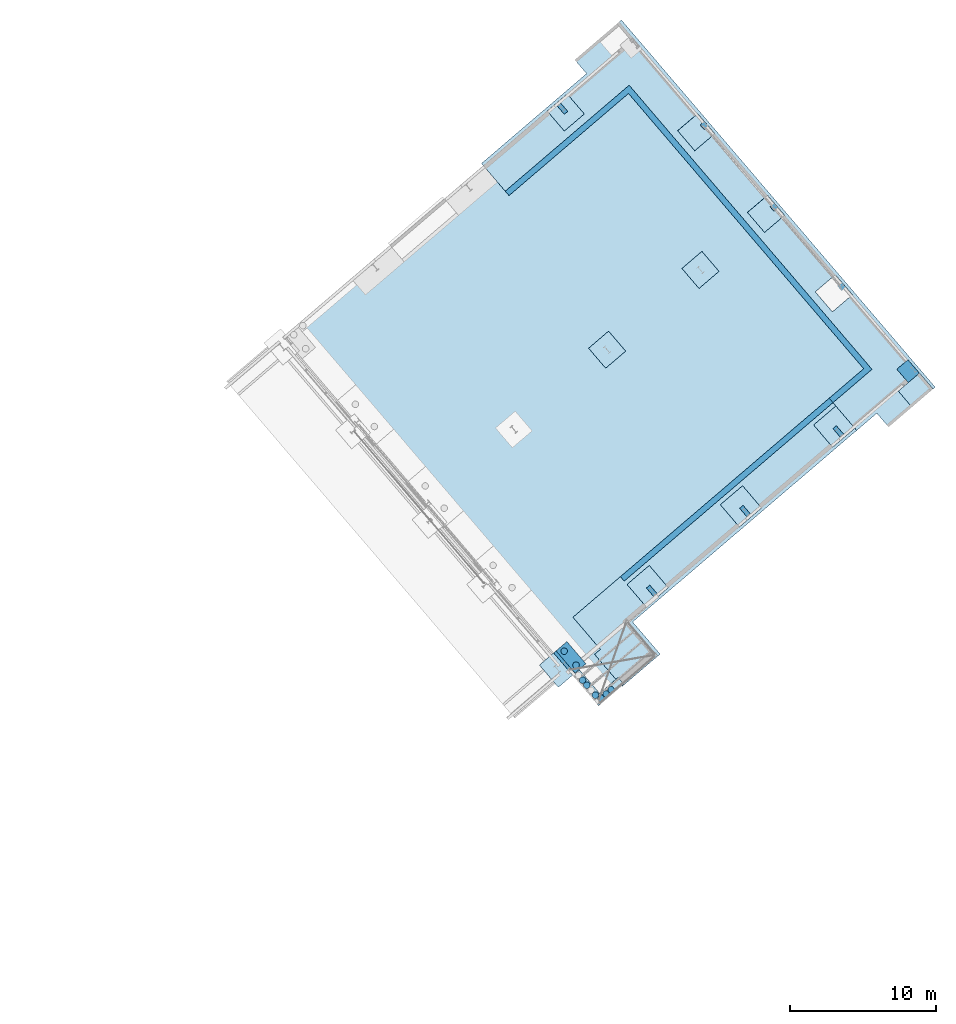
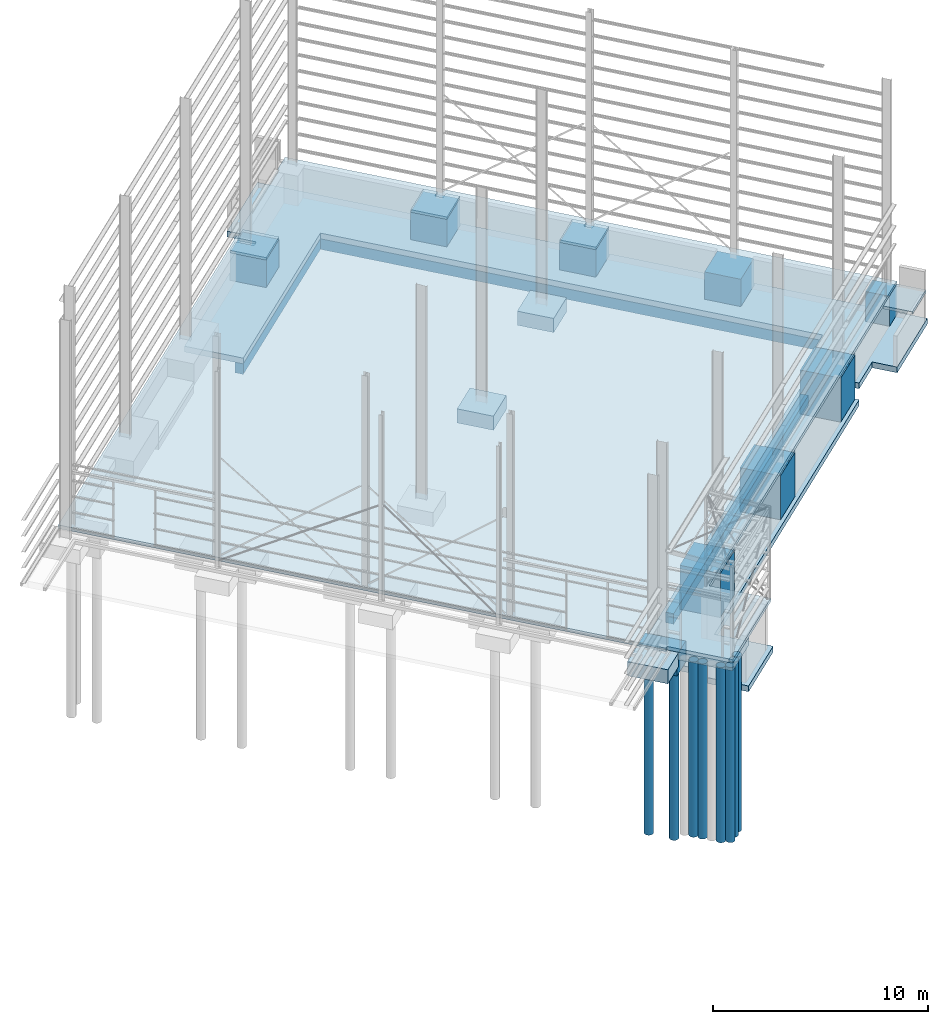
# One storey, part 36 of 41: 33 slabs.
"""IFC2X3 building model written with IfcOpenShell, lengths in millimetres."""

from ifc_helpers import new_model, entity, si_unit, converted_unit, derived_unit, direction, frame, frame_2d, origin, origin_2d_with_axis, place, context, subcontext, project, spatial, polyline, circle_curve, parameter, trimmed, segment, composite_curve, rectangle, circle, outline, extrude, material, layer, layer_set, layer_usage, type_object, element, save


model = new_model("IFC2X3")

# Units and contexts
model_context = context("Model", 3, precision=0.01, world=origin(), true_north=direction((6.123031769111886e-17, 1.0)))
body_context = subcontext(model_context, "Body", "Model", "MODEL_VIEW")
ifc_project = project(units=[si_unit("LENGTHUNIT", "METRE", prefix="MILLI"), si_unit("AREAUNIT", "SQUARE_METRE"), si_unit("VOLUMEUNIT", "CUBIC_METRE"), converted_unit("PLANEANGLEUNIT", "DEGREE", entity("IfcRatioMeasure", 0.017453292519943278), si_unit("PLANEANGLEUNIT", "RADIAN"), dimensions=[0, 0, 0, 0, 0, 0, 0]), si_unit("MASSUNIT", "GRAM", prefix="KILO"), derived_unit("MASSDENSITYUNIT", [(si_unit("MASSUNIT", "GRAM", prefix="KILO"), 1), (si_unit("LENGTHUNIT", "METRE"), -3)]), derived_unit("MOMENTOFINERTIAUNIT", [(si_unit("LENGTHUNIT", "METRE"), 4)]), si_unit("TIMEUNIT", "SECOND"), si_unit("FREQUENCYUNIT", "HERTZ"), si_unit("THERMODYNAMICTEMPERATUREUNIT", "DEGREE_CELSIUS"), derived_unit("THERMALTRANSMITTANCEUNIT", [(si_unit("MASSUNIT", "GRAM", prefix="KILO"), 1), (si_unit("THERMODYNAMICTEMPERATUREUNIT", "KELVIN"), -1), (si_unit("TIMEUNIT", "SECOND"), -3)]), derived_unit("VOLUMETRICFLOWRATEUNIT", [(si_unit("LENGTHUNIT", "METRE"), 3), (si_unit("TIMEUNIT", "SECOND"), -1)]), derived_unit("MASSFLOWRATEUNIT", [(si_unit("MASSUNIT", "GRAM", prefix="KILO"), 1), (si_unit("TIMEUNIT", "SECOND"), -1)]), derived_unit("ROTATIONALFREQUENCYUNIT", [(si_unit("TIMEUNIT", "SECOND"), -1)]), si_unit("ELECTRICCURRENTUNIT", "AMPERE"), si_unit("ELECTRICVOLTAGEUNIT", "VOLT"), si_unit("POWERUNIT", "WATT"), si_unit("FORCEUNIT", "NEWTON", prefix="KILO"), si_unit("ILLUMINANCEUNIT", "LUX"), si_unit("LUMINOUSFLUXUNIT", "LUMEN"), si_unit("LUMINOUSINTENSITYUNIT", "CANDELA"), derived_unit("USERDEFINED", [(si_unit("MASSUNIT", "GRAM", prefix="KILO"), -1), (si_unit("LENGTHUNIT", "METRE"), -2), (si_unit("TIMEUNIT", "SECOND"), 3), (si_unit("LUMINOUSFLUXUNIT", "LUMEN"), 1)]), derived_unit("SOUNDPOWERUNIT", [(si_unit("MASSUNIT", "GRAM", prefix="KILO"), 1), (si_unit("LENGTHUNIT", "METRE"), 2), (si_unit("TIMEUNIT", "SECOND"), -3)]), derived_unit("LINEARVELOCITYUNIT", [(si_unit("LENGTHUNIT", "METRE"), 1), (si_unit("TIMEUNIT", "SECOND"), -1)]), si_unit("PRESSUREUNIT", "PASCAL"), derived_unit("USERDEFINED", [(si_unit("LENGTHUNIT", "METRE"), -2), (si_unit("MASSUNIT", "GRAM", prefix="KILO"), 1), (si_unit("TIMEUNIT", "SECOND"), -2)]), derived_unit("LINEARFORCEUNIT", [(si_unit("MASSUNIT", "GRAM", prefix="KILO"), 1), (si_unit("LENGTHUNIT", "METRE"), 1), (si_unit("TIMEUNIT", "SECOND"), -2), (si_unit("LENGTHUNIT", "METRE"), -1)]), derived_unit("PLANARFORCEUNIT", [(si_unit("MASSUNIT", "GRAM", prefix="KILO"), 1), (si_unit("LENGTHUNIT", "METRE"), 1), (si_unit("TIMEUNIT", "SECOND"), -2), (si_unit("LENGTHUNIT", "METRE"), -2)])], contexts=[model_context])

# Site, building, storey
site_placement = place(None, frame((962.4174930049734, -6014.433753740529, 0.0), z_axis=(0.0, 0.0, 1.0), x_axis=(0.7601792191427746, 0.649713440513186, 0.0)))
site = spatial("IfcSite", under=ifc_project, at=site_placement, Name="Default", CompositionType="ELEMENT")
building_placement = place(site_placement, origin())
building = spatial("IfcBuilding", under=site, at=building_placement, CompositionType="ELEMENT")
storey_placement = place(building_placement, origin())
storey = spatial("IfcBuildingStorey", under=building, at=storey_placement, Name="Datum", CompositionType="ELEMENT", Elevation=0.0)

# Slabs
ifc_material_1 = material(Name="GHD-Concrete-Concrete_InSitu")
slab_type_1 = type_object("IfcSlabType", Name="FT-GHD-Pad:1500x2000x800", PredefinedType="BASESLAB", material=ifc_material_1)
slab_1_placement = place(building_placement, origin())
element("IfcSlab", 1, at=slab_1_placement, inside=storey, type_object=slab_type_1, Name="FT-GHD-Pad:1500x2000x800", ObjectType="FT-GHD-Pad:1500x2000x800", PredefinedType="BASESLAB", context=body_context, shape_type="SweptSolid", body=[
    extrude(rectangle(XDim=1500.0000000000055, YDim=1999.999999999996, at=frame_2d((176.9999999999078, 4.376943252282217e-12), x_axis=(1.0, 0.0))), frame((154115.96020470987, -25622.42808212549, -1170.0), z_axis=(0.0, 0.0, 1.0), x_axis=(-1.0, 0.0, 0.0)), (0.0, 0.0, 1.0), 799.99999999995),
])
slab_type_2 = type_object("IfcSlabType", Name="FT-GHD-Pad:1800x1800x800", PredefinedType="BASESLAB", material=ifc_material_1)
slab_2_placement = place(building_placement, origin())
element("IfcSlab", 2, at=slab_2_placement, inside=storey, type_object=slab_type_2, Name="FT-GHD-Pad:1800x1800x800", ObjectType="FT-GHD-Pad:1800x1800x800", PredefinedType="BASESLAB", context=body_context, shape_type="SweptSolid", body=[
    extrude(rectangle(XDim=1799.9999999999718, YDim=1799.999999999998, at=frame_2d((0.0, 2.1600499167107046e-12), x_axis=(1.0, 0.0))), frame((170743.76020470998, -11221.928082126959, -1150.0), z_axis=(0.0, 0.0, 1.0), x_axis=(-1.0, 0.0, 0.0)), (0.0, 0.0, 1.0), 799.9999999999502),
])
slab_type_3 = type_object("IfcSlabType", Name="FT-GHD-Pad:1800x1800x800", PredefinedType="BASESLAB", material=ifc_material_1)
slab_3_placement = place(building_placement, origin())
element("IfcSlab", 3, at=slab_3_placement, inside=storey, type_object=slab_type_3, Name="FT-GHD-Pad:1800x1800x800", ObjectType="FT-GHD-Pad:1800x1800x800", PredefinedType="BASESLAB", context=body_context, shape_type="SweptSolid", body=[
    extrude(rectangle(XDim=1799.9999999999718, YDim=1799.999999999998, at=origin_2d_with_axis()), frame((179148.56020471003, -11221.92808212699, -1150.0), z_axis=(0.0, 0.0, 1.0), x_axis=(-1.0, 0.0, 0.0)), (0.0, 0.0, 1.0), 799.9999999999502),
])
slab_type_4 = type_object("IfcSlabType", Name="FT-GHD-Pad:2500x2000x2000", PredefinedType="BASESLAB", material=ifc_material_1)
slab_4_placement = place(building_placement, origin())
element("IfcSlab", 4, at=slab_4_placement, inside=storey, type_object=slab_type_4, Name="FT-GHD-Pad:2500x2000x2000", ObjectType="FT-GHD-Pad:2500x2000x2000", PredefinedType="BASESLAB", context=body_context, shape_type="SweptSolid", body=[
    extrude(rectangle(XDim=1999.999999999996, YDim=1999.999999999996, at=frame_2d((-1.7337242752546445e-11, 0.0), x_axis=(1.0, 0.0))), frame((170738.96020470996, -25323.428082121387, -2850.0), z_axis=(0.0, 0.0, 1.0), x_axis=(-1.0, 0.0, 0.0)), (0.0, 0.0, 1.0), 2499.9999999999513),
])
slab_type_5 = type_object("IfcSlabType", Name="FT-GHD-Pad:2500x2000x2000", PredefinedType="BASESLAB", material=ifc_material_1)
slab_5_placement = place(building_placement, origin())
element("IfcSlab", 5, at=slab_5_placement, inside=storey, type_object=slab_type_5, Name="FT-GHD-Pad:2500x2000x2000", ObjectType="FT-GHD-Pad:2500x2000x2000", PredefinedType="BASESLAB", context=body_context, shape_type="SweptSolid", body=[
    extrude(rectangle(XDim=1999.999999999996, YDim=1999.999999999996, at=frame_2d((1.7337242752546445e-11, 0.0), x_axis=(1.0, 0.0))), frame((179138.96020471, -25323.42808212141, -2850.0), z_axis=(0.0, 0.0, 1.0), x_axis=(-1.0, 0.0, 0.0)), (0.0, 0.0, 1.0), 2499.9999999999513),
])
slab_type_6 = type_object("IfcSlabType", Name="FT-GHD-Pad:1700x1000x1000", PredefinedType="BASESLAB", material=ifc_material_1)
slab_6_placement = place(storey_placement, origin())
element("IfcSlab", 6, at=slab_6_placement, inside=storey, type_object=slab_type_6, Name="FT-GHD-Pad:1700x1000x1000", ObjectType="FT-GHD-Pad:1700x1000x1000", PredefinedType="BASESLAB", context=body_context, shape_type="SweptSolid", body=[
    extrude(rectangle(XDim=999.9999999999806, YDim=1200.0, at=frame_2d((0.0, 2.1600499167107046e-12), x_axis=(1.0, 0.0))), frame((185449.5602047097, -25723.4280821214, -1900.0), z_axis=(0.0, 0.0, 1.0), x_axis=(-1.0, 0.0, 0.0)), (0.0, 0.0, 1.0), 1699.9999999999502),
])
slab_type_7 = type_object("IfcSlabType", Name="FT-GHD-Pad:2500x2000x2000", PredefinedType="BASESLAB", material=ifc_material_1)
slab_7_placement = place(building_placement, origin())
element("IfcSlab", 7, at=slab_7_placement, inside=storey, type_object=slab_type_7, Name="FT-GHD-Pad:2500x2000x2000", ObjectType="FT-GHD-Pad:2500x2000x2000", PredefinedType="BASESLAB", context=body_context, shape_type="SweptSolid", body=[
    extrude(rectangle(XDim=1999.999999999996, YDim=1999.999999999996, at=frame_2d((1.7337242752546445e-11, 0.0), x_axis=(1.0, 0.0))), frame((162338.96020470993, -25323.428082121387, -2850.0), z_axis=(0.0, 0.0, 1.0), x_axis=(-1.0, 0.0, 0.0)), (0.0, 0.0, 1.0), 2499.9999999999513),
])
slab_type_8 = type_object("IfcSlabType", Name="FT-GHD-Pad:1550x1800x1800", PredefinedType="BASESLAB", material=ifc_material_1)
slab_8_placement = place(building_placement, origin())
element("IfcSlab", 8, at=slab_8_placement, inside=storey, type_object=slab_type_8, Name="FT-GHD-Pad:1550x1800x1800", ObjectType="FT-GHD-Pad:1550x1800x1800", PredefinedType="BASESLAB", context=body_context, shape_type="SweptSolid", body=[
    extrude(rectangle(XDim=1800.0, YDim=1800.0000000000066, at=frame_2d((-1.1368683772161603e-13, 0.0), x_axis=(1.0, 0.0))), frame((179138.96020471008, 2960.0719178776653, -1900.0), z_axis=(0.0, 0.0, 1.0), x_axis=(0.0, -1.0, 0.0)), (0.0, 0.0, 1.0), 1549.9999999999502),
])
slab_type_9 = type_object("IfcSlabType", Name="FT-GHD-Pad:1500x800x950 2", PredefinedType="BASESLAB", material=ifc_material_1)
slab_9_placement = place(storey_placement, origin())
element("IfcSlab", 9, at=slab_9_placement, inside=storey, type_object=slab_type_9, Name="FT-GHD-Pad:1500x800x950 2", ObjectType="FT-GHD-Pad:1500x800x950 2", PredefinedType="BASESLAB", context=body_context, shape_type="SweptSolid", body=[
    extrude(outline(polyline([(-727.0, -533.3333333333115), (473.0, -533.3333333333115), (473.0, -133.33333333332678), (254.0, -133.33333333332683), (254.0, 666.6666666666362), (-727.0, 666.6666666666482), (-727.0, -533.3333333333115)])), frame((154942.96020470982, -26622.42808212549, -1036.6666666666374), z_axis=(0.0, 1.0, 0.0), x_axis=(-1.0, 0.0, 0.0)), (0.0, 0.0, 1.0), 1999.999999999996),
])
ifc_material_2 = material(Name="Concrete_Cast in Situ")
slab_type_10 = type_object("IfcSlabType", Name="FT-GHD-Pile-Round:450 BORED PILE", PredefinedType="BASESLAB", material=ifc_material_2)
slab_10_placement = place(building_placement, origin())
element("IfcSlab", 10, at=slab_10_placement, inside=storey, type_object=slab_type_10, Name="FT-GHD-Pile-Round:450 BORED PILE", ObjectType="FT-GHD-Pile-Round:450 BORED PILE", PredefinedType="BASESLAB", context=body_context, shape_type="SweptSolid", body=[
    extrude(circle(Radius=225.00000000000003, at=origin_2d_with_axis()), frame((155098.33794747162, -26247.428082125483, -11250.0)), (0.0, 0.0, 1.0), 9680.000000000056),
])
slab_type_11 = type_object("IfcSlabType", Name="FT-GHD-Pile-Round:450 BORED PILE", PredefinedType="BASESLAB", material=ifc_material_2)
slab_11_placement = place(building_placement, origin())
element("IfcSlab", 11, at=slab_11_placement, inside=storey, type_object=slab_type_11, Name="FT-GHD-Pile-Round:450 BORED PILE", ObjectType="FT-GHD-Pile-Round:450 BORED PILE", PredefinedType="BASESLAB", context=body_context, shape_type="SweptSolid", body=[
    extrude(circle(Radius=225.00000000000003, at=origin_2d_with_axis()), frame((155098.33794747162, -24997.428082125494, -11250.0)), (0.0, 0.0, 1.0), 9680.000000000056),
])
slab_type_12 = type_object("IfcSlabType", Name="FT-GHD-Pad:1550x1800x1800", PredefinedType="BASESLAB", material=ifc_material_1)
slab_12_placement = place(building_placement, origin())
element("IfcSlab", 12, at=slab_12_placement, inside=storey, type_object=slab_type_12, Name="FT-GHD-Pad:1550x1800x1800", ObjectType="FT-GHD-Pad:1550x1800x1800", PredefinedType="BASESLAB", context=body_context, shape_type="SweptSolid", body=[
    extrude(rectangle(XDim=1800.0000000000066, YDim=1799.999999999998, at=origin_2d_with_axis()), frame((185049.56020470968, -18372.07885687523, -1900.0), z_axis=(0.0, 0.0, 1.0), x_axis=(-1.0, 0.0, 0.0)), (0.0, 0.0, 1.0), 1549.9999999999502),
])
slab_type_13 = type_object("IfcSlabType", Name="FT-GHD-Pad:1550x1800x1800", PredefinedType="BASESLAB", material=ifc_material_1)
slab_13_placement = place(building_placement, origin())
element("IfcSlab", 13, at=slab_13_placement, inside=storey, type_object=slab_type_13, Name="FT-GHD-Pad:1550x1800x1800", ObjectType="FT-GHD-Pad:1550x1800x1800", PredefinedType="BASESLAB", context=body_context, shape_type="SweptSolid", body=[
    extrude(rectangle(XDim=1800.0000000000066, YDim=1799.999999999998, at=origin_2d_with_axis()), frame((185049.56020470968, -11215.978082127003, -1900.0), z_axis=(0.0, 0.0, 1.0), x_axis=(-1.0, 0.0, 0.0)), (0.0, 0.0, 1.0), 1549.9999999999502),
])
slab_type_14 = type_object("IfcSlabType", Name="FT-GHD-Pad:1550x1800x1800", PredefinedType="BASESLAB", material=ifc_material_1)
slab_14_placement = place(building_placement, origin())
element("IfcSlab", 14, at=slab_14_placement, inside=storey, type_object=slab_type_14, Name="FT-GHD-Pad:1550x1800x1800", ObjectType="FT-GHD-Pad:1550x1800x1800", PredefinedType="BASESLAB", context=body_context, shape_type="SweptSolid", body=[
    extrude(rectangle(XDim=1800.0000000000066, YDim=1799.9999999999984, at=frame_2d((0.0, 2.8421709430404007e-13), x_axis=(1.0, 0.0))), frame((185049.56020470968, -3861.640582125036, -1900.0), z_axis=(0.0, 0.0, 1.0), x_axis=(-1.0, 0.0, 0.0)), (0.0, 0.0, 1.0), 1549.9999999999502),
])
ifc_layer_1 = layer(ifc_material_1, 200.0)
ifc_layer_set_1 = layer_set([ifc_layer_1], Name="Floor:FL-GHD-Cast In Situ - Concrete 200")
ifc_layer_usage_1 = layer_usage(ifc_layer_set_1, "AXIS3", "POSITIVE", 0.0)
slab_type_15 = type_object("IfcSlabType", Name="Floor:FL-GHD-Cast In Situ - Concrete 200", PredefinedType="FLOOR", material=ifc_layer_set_1)
slab_15_placement = place(building_placement, origin())
element("IfcSlab", 15, at=slab_15_placement, inside=storey, type_object=slab_type_15, material=ifc_layer_usage_1, Name="Floor:FL-GHD-Cast In Situ - Concrete 200", ObjectType="Floor:FL-GHD-Cast In Situ - Concrete 200", PredefinedType="FLOOR", context=body_context, shape_type="SweptSolid", body=[
    extrude(outline(polyline([(-6641.749999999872, -9312.1500000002), (23351.24999999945, -9312.1500000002), (23351.24999999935, 22327.450000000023), (-6832.249999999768, 22327.450000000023), (-6832.249999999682, -3858.149999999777), (-9877.249999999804, -3858.149999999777), (-9877.249999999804, -9157.150000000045), (-6641.749999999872, -9157.150000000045), (-6641.749999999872, -9312.1500000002)])), frame((163622.1102047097, -19491.178082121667, 0.0), z_axis=(0.0, 0.0, -1.0), x_axis=(0.0, 1.0, 0.0)), (0.0, 0.0, 1.0), 200.0),
])
ifc_material_3 = material(Name="<Unnamed>")
ifc_layer_2 = layer(ifc_material_3, 325.0)
ifc_layer_set_2 = layer_set([ifc_layer_2], Name="Foundation Slab:PH-Foundation Slab (325)")
ifc_layer_usage_2 = layer_usage(ifc_layer_set_2, "AXIS3", "POSITIVE", 0.0)
slab_type_16 = type_object("IfcSlabType", Name="Foundation Slab:PH-Foundation Slab (325)", PredefinedType="BASESLAB", material=ifc_layer_set_2)
slab_16_placement = place(building_placement, origin())
element("IfcSlab", 16, at=slab_16_placement, inside=storey, type_object=slab_type_16, material=ifc_layer_usage_2, Name="Foundation Slab:PH-Foundation Slab (325)", ObjectType="Foundation Slab:PH-Foundation Slab (325)", PredefinedType="BASESLAB", context=body_context, shape_type="SweptSolid", body=[
    extrude(outline(polyline([(12391.7499999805, -8499.399999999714), (15291.749999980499, -8499.399999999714), (15291.749999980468, 963.1999999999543), (16529.75000000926, 963.1999999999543), (16529.750000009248, 5161.199999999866), (-16529.749999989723, 5161.199999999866), (-16529.749999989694, 963.1999999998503), (-15291.749999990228, 963.1999999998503), (-15291.749999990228, -849.3999999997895), (-12391.749999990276, -849.3999999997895), (-12391.749999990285, 2261.199999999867), (12391.749999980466, 2261.199999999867), (12391.7499999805, -8499.399999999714)])), frame((180988.3602047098, -11231.678082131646, -1900.0), z_axis=(0.0, 0.0, -1.0), x_axis=(0.0, 1.0, 0.0)), (0.0, 0.0, 1.0), 325.0),
])
ifc_layer_3 = layer(ifc_material_3, 600.0)
ifc_layer_set_3 = layer_set([ifc_layer_3], Name="Foundation Slab:PH-Foundation Slab (600)")
ifc_layer_usage_3 = layer_usage(ifc_layer_set_3, "AXIS3", "POSITIVE", 0.0)
slab_type_17 = type_object("IfcSlabType", Name="Foundation Slab:PH-Foundation Slab (600)", PredefinedType="BASESLAB", material=ifc_layer_set_3)
slab_17_placement = place(building_placement, origin())
element("IfcSlab", 17, at=slab_17_placement, inside=storey, type_object=slab_type_17, material=ifc_layer_usage_3, Name="Foundation Slab:PH-Foundation Slab (600)", ObjectType="Foundation Slab:PH-Foundation Slab (600)", PredefinedType="BASESLAB", context=body_context, shape_type="SweptSolid", body=[
    extrude(outline(polyline([(12391.7499999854, -7392.799999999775), (12791.7499999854, -7392.799999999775), (12791.749999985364, 3767.799999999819), (-12791.749999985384, 3767.799999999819), (-12791.749999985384, 257.20000000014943), (-12391.749999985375, 257.20000000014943), (-12391.749999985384, 3367.799999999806), (12391.749999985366, 3367.799999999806), (12391.7499999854, -7392.799999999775)])), frame((179881.76020470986, -11231.678082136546, -2225.0), z_axis=(0.0, 0.0, -1.0), x_axis=(0.0, 1.0, 0.0)), (0.0, 0.0, 1.0), 599.9999999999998),
])
ifc_layer_4 = layer(ifc_material_1, 170.0)
ifc_layer_set_4 = layer_set([ifc_layer_4], Name="Floor:FL-GHD-Cast In Situ - Concrete 170")
ifc_layer_usage_4 = layer_usage(ifc_layer_set_4, "AXIS3", "POSITIVE", 0.0)
slab_type_18 = type_object("IfcSlabType", Name="Floor:FL-GHD-Cast In Situ - Concrete 170", PredefinedType="FLOOR", material=ifc_layer_set_4)
slab_18_placement = place(building_placement, origin())
element("IfcSlab", 18, at=slab_18_placement, inside=storey, type_object=slab_type_18, material=ifc_layer_usage_4, Name="Floor:FL-GHD-Cast In Situ - Concrete 170", ObjectType="Floor:FL-GHD-Cast In Situ - Concrete 170", PredefinedType="FLOOR", context=body_context, shape_type="SweptSolid", body=[
    extrude(rectangle(XDim=1434.9999999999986, YDim=1899.9999999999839, at=frame_2d((-2.1600499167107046e-12, 0.0), x_axis=(1.0, 0.0))), frame((185001.56020470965, -27043.928082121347, -150.0), z_axis=(0.0, 0.0, -1.0), x_axis=(0.0, 1.0, 0.0)), (0.0, 0.0, 1.0), 170.0),
])
ifc_layer_5 = layer(ifc_material_3, 450.00000000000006)
ifc_layer_set_5 = layer_set([ifc_layer_5], Name="Foundation Slab:Strip Footing (450)")
ifc_layer_usage_5 = layer_usage(ifc_layer_set_5, "AXIS3", "POSITIVE", 0.0)
slab_type_19 = type_object("IfcSlabType", Name="Foundation Slab:Strip Footing (450)", PredefinedType="BASESLAB", material=ifc_layer_set_5)
slab_19_placement = place(building_placement, origin())
element("IfcSlab", 19, at=slab_19_placement, inside=storey, type_object=slab_type_19, material=ifc_layer_usage_5, Name="Foundation Slab:Strip Footing (450)", ObjectType="Foundation Slab:Strip Footing (450)", PredefinedType="BASESLAB", context=body_context, shape_type="SweptSolid", body=[
    extrude(outline(polyline([(-1107.1427504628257, -958.0706596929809), (1614.2855009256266, -958.0706596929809), (1614.2855009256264, -358.07065969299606), (-507.1427504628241, -358.0706596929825), (-507.14275046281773, 1316.1413193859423), (-1107.14275046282, 1316.1413193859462), (-1107.1427504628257, -958.0706596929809)])), frame((155423.03086440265, -28261.213583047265, -200.0), z_axis=(0.0, 0.0, -1.0), x_axis=(0.0, 1.0, 0.0)), (0.0, 0.0, 1.0), 450.00000000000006),
])
slab_type_20 = type_object("IfcSlabType", Name="FT-GHD-Pile-Round:450 BORED PILE", PredefinedType="BASESLAB", material=ifc_material_2)
slab_20_placement = place(building_placement, origin())
element("IfcSlab", 20, at=slab_20_placement, inside=storey, type_object=slab_type_20, Name="FT-GHD-Pile-Round:450 BORED PILE", ObjectType="FT-GHD-Pile-Round:450 BORED PILE", PredefinedType="BASESLAB", context=body_context, shape_type="SweptSolid", body=[
    extrude(circle(Radius=225.00000000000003, at=origin_2d_with_axis()), frame((155824.96020470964, -29088.356333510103, -10600.0)), (0.0, 0.0, 1.0), 9950.000000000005),
])
slab_type_21 = type_object("IfcSlabType", Name="FT-GHD-Pile-Round:450 BORED PILE", PredefinedType="BASESLAB", material=ifc_material_2)
slab_21_placement = place(storey_placement, origin())
element("IfcSlab", 21, at=slab_21_placement, inside=storey, type_object=slab_type_21, Name="FT-GHD-Pile-Round:450 BORED PILE", ObjectType="FT-GHD-Pile-Round:450 BORED PILE", PredefinedType="BASESLAB", context=body_context, shape_type="SweptSolid", body=[
    extrude(outline(composite_curve([segment(trimmed(circle_curve(frame_2d((0.0, -110.0), x_axis=(1.0, 0.0)), 225.00000000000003), [parameter(3.5622212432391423e-13)], [parameter(77.89850796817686)], True, "PARAMETER"), True, "CONTINUOUS"), segment(trimmed(circle_curve(frame_2d((0.0, 330.0), x_axis=(1.0, 0.0)), 225.00000000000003), [parameter(257.89850796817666)], [parameter(282.10149203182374)], True, "PARAMETER"), False, "CONTINUOUS"), segment(trimmed(circle_curve(frame_2d((0.0, -110.0), x_axis=(1.0, 0.0)), 225.00000000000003), [parameter(102.10149203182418)], [parameter(180.0)], True, "PARAMETER"), True, "CONTINUOUS"), segment(trimmed(circle_curve(frame_2d((0.0, -110.0), x_axis=(1.0, 0.0)), 225.00000000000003), [parameter(180.0)], [parameter(0.0)], True, "PARAMETER"), True, "CONTINUOUS")], self_intersect=False)), frame((154764.96020470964, -27216.928082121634, -10600.0)), (0.0, 0.0, 1.0), 9950.000000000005),
])
slab_type_22 = type_object("IfcSlabType", Name="FT-GHD-Pile-Round:450 BORED PILE", PredefinedType="BASESLAB", material=ifc_material_2)
slab_22_placement = place(storey_placement, origin())
element("IfcSlab", 22, at=slab_22_placement, inside=storey, type_object=slab_type_22, Name="FT-GHD-Pile-Round:450 BORED PILE", ObjectType="FT-GHD-Pile-Round:450 BORED PILE", PredefinedType="BASESLAB", context=body_context, shape_type="SweptSolid", body=[
    extrude(circle(Radius=225.00000000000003, at=origin_2d_with_axis()), frame((154764.96020470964, -27776.928082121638, -10600.0)), (0.0, 0.0, 1.0), 9950.000000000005),
])
ifc_layer_usage_6 = layer_usage(ifc_layer_set_2, "AXIS3", "POSITIVE", 0.0)
slab_type_23 = type_object("IfcSlabType", Name="Foundation Slab:PH-Foundation Slab (325)", PredefinedType="BASESLAB", material=ifc_layer_set_2)
slab_23_placement = place(building_placement, origin())
element("IfcSlab", 23, at=slab_23_placement, inside=storey, type_object=slab_type_23, material=ifc_layer_usage_6, Name="Foundation Slab:PH-Foundation Slab (325)", ObjectType="Foundation Slab:PH-Foundation Slab (325)", PredefinedType="BASESLAB", context=body_context, shape_type="SweptSolid", body=[
    extrude(outline(polyline([(-2897.4641256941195, -6887.447005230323), (2.535874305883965, -6887.447005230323), (2.535874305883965, -6362.447005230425), (2897.4641256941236, -6362.447005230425), (2897.4641256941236, 16712.341015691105), (-2.5358743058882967, 16712.341015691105), (-2.5358743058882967, -3462.447005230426), (-2897.4641256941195, -3462.447005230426), (-2897.4641256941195, -6887.447005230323)])), frame((163426.6191890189, -26520.892207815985, -2850.0), z_axis=(0.0, 0.0, -1.0), x_axis=(0.0, 1.0, 0.0)), (0.0, 0.0, 1.0), 325.0000000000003),
])
ifc_layer_usage_7 = layer_usage(ifc_layer_set_3, "AXIS3", "POSITIVE", 0.0)
slab_type_24 = type_object("IfcSlabType", Name="Foundation Slab:PH-Foundation Slab (600)", PredefinedType="BASESLAB", material=ifc_layer_set_3)
slab_24_placement = place(building_placement, origin())
element("IfcSlab", 24, at=slab_24_placement, inside=storey, type_object=slab_type_24, material=ifc_layer_usage_7, Name="Foundation Slab:PH-Foundation Slab (600)", ObjectType="Foundation Slab:PH-Foundation Slab (600)", PredefinedType="BASESLAB", context=body_context, shape_type="SweptSolid", body=[
    extrude(rectangle(XDim=400.0000000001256, YDim=18800.00000000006, at=frame_2d((0.0, -1.7280399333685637e-11), x_axis=(1.0, 0.0))), frame((170738.96020471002, -23823.428082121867, -3175.0), z_axis=(0.0, 0.0, -1.0), x_axis=(0.0, 1.0, 0.0)), (0.0, 0.0, 1.0), 600.0),
])
slab_type_25 = type_object("IfcSlabType", Name="FT-GHD-Pile-Round:450 BORED PILE", PredefinedType="BASESLAB", material=ifc_material_2)
slab_25_placement = place(storey_placement, origin())
element("IfcSlab", 25, at=slab_25_placement, inside=storey, type_object=slab_type_25, Name="FT-GHD-Pile-Round:450 BORED PILE", ObjectType="FT-GHD-Pile-Round:450 BORED PILE", PredefinedType="BASESLAB", context=body_context, shape_type="SweptSolid", body=[
    extrude(circle(Radius=225.00000000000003, at=origin_2d_with_axis()), frame((155374.96020470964, -29088.356333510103, -10600.0)), (0.0, 0.0, 1.0), 9950.000000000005),
])
slab_type_26 = type_object("IfcSlabType", Name="FT-GHD-Pile-Round:450 BORED PILE", PredefinedType="BASESLAB", material=ifc_material_2)
slab_26_placement = place(storey_placement, origin())
element("IfcSlab", 26, at=slab_26_placement, inside=storey, type_object=slab_type_26, Name="FT-GHD-Pile-Round:450 BORED PILE", ObjectType="FT-GHD-Pile-Round:450 BORED PILE", PredefinedType="BASESLAB", context=body_context, shape_type="SweptSolid", body=[
    extrude(circle(Radius=225.00000000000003, at=frame_2d((39.99999999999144, -102.85706284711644), x_axis=(1.0, 0.0))), frame((154884.96020470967, -28985.499270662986, -10600.0)), (0.0, 0.0, 1.0), 9950.000000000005),
])
ifc_layer_6 = layer(ifc_material_1, 150.0)
ifc_layer_set_6 = layer_set([ifc_layer_6], Name="Floor:FL-GHD-Cast In Situ - Concrete 150")
ifc_layer_usage_8 = layer_usage(ifc_layer_set_6, "AXIS3", "POSITIVE", 0.0)
slab_type_27 = type_object("IfcSlabType", Name="Floor:FL-GHD-Cast In Situ - Concrete 150", PredefinedType="FLOOR")
slab_27_placement = place(storey_placement, frame((161338.96020470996, -26323.42808212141, -350.0)))
element("IfcSlab", 27, at=slab_27_placement, inside=storey, type_object=slab_type_27, material=ifc_layer_usage_8, Name="Floor:FL-GHD-Cast In Situ - Concrete 150", ObjectType="Floor:FL-GHD-Cast In Situ - Concrete 150", PredefinedType="FLOOR", context=body_context, shape_type="SweptSolid", body=[
    extrude(outline(polyline([(8554.500000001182, -1000.0), (9400.0, -1000.0), (9400.0, 1000.0), (8315.030872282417, 1000.0), (7400.0, 1000.0), (7400.0, -1000.0), (8245.49999999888, -1000.0), (8245.49999999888, -47.0), (8554.500000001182, -47.0), (8554.500000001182, -1000.0)])), frame((9400.0, 1000.0, 150.0), z_axis=(0.0, 0.0, -1.0), x_axis=(-1.0, 0.0, 0.0)), (0.0, 0.0, 1.0), 150.0),
])
slab_type_28 = type_object("IfcSlabType", Name="Floor:FL-GHD-Cast In Situ - Concrete 150", PredefinedType="FLOOR")
slab_28_placement = place(storey_placement, frame((161338.96020470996, -26323.42808212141, -350.0)))
element("IfcSlab", 28, at=slab_28_placement, inside=storey, type_object=slab_type_28, material=ifc_layer_usage_8, Name="Floor:FL-GHD-Cast In Situ - Concrete 150:2", ObjectType="Floor:FL-GHD-Cast In Situ - Concrete 150", PredefinedType="FLOOR", context=body_context, shape_type="SweptSolid", body=[
    extrude(outline(polyline([(154.50000000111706, -1000.0), (1000.0, -1000.0), (1000.0, 1000.0), (98.67073190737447, 1000.0), (-1000.0, 1000.0), (-1000.0, -1000.0), (-154.50000000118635, -1000.0), (-154.50000000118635, -47.0), (154.50000000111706, -47.0), (154.50000000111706, -1000.0)])), frame((9400.0, 1000.0, 150.0), z_axis=(0.0, 0.0, -1.0), x_axis=(-1.0, 0.0, 0.0)), (0.0, 0.0, 1.0), 150.0),
])
slab_type_29 = type_object("IfcSlabType", Name="Floor:FL-GHD-Cast In Situ - Concrete 150", PredefinedType="FLOOR", material=ifc_layer_set_6)
slab_29_placement = place(storey_placement, frame((161338.96020470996, -26323.42808212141, -350.0)))
element("IfcSlab", 29, at=slab_29_placement, inside=storey, type_object=slab_type_29, material=ifc_layer_usage_8, Name="Floor:FL-GHD-Cast In Situ - Concrete 150:3", ObjectType="Floor:FL-GHD-Cast In Situ - Concrete 150", PredefinedType="FLOOR", context=body_context, shape_type="SweptSolid", body=[
    extrude(outline(polyline([(-8245.49999999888, -1000.0), (-7400.0, -1000.0), (-7400.0, 1000.0), (-8401.349812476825, 1000.0), (-9400.0, 1000.0), (-9400.0, -1000.0), (-8554.500000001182, -1000.0), (-8554.500000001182, -47.0), (-8245.49999999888, -47.0), (-8245.49999999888, -1000.0)])), frame((9400.0, 1000.0, 150.0), z_axis=(0.0, 0.0, -1.0), x_axis=(-1.0, 0.0, 0.0)), (0.0, 0.0, 1.0), 150.0),
])
ifc_layer_usage_9 = layer_usage(ifc_layer_set_6, "AXIS3", "POSITIVE", 0.0)
slab_type_30 = type_object("IfcSlabType", Name="Floor:FL-GHD-Cast In Situ - Concrete 150", PredefinedType="FLOOR")
slab_30_placement = place(storey_placement, frame((184149.5602047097, -19272.078856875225, -350.0)))
element("IfcSlab", 30, at=slab_30_placement, inside=storey, type_object=slab_type_30, material=ifc_layer_usage_9, Name="Floor:FL-GHD-Cast In Situ - Concrete 150:2", ObjectType="Floor:FL-GHD-Cast In Situ - Concrete 150", PredefinedType="FLOOR", context=body_context, shape_type="SweptSolid", body=[
    extrude(outline(polyline([(-900.0, 102.03827474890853), (-527.3999999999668, 102.0382747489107), (-527.3999999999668, -304.9617252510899), (-900.0, -304.96172525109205), (-900.0, -1002.7250000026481), (900.0, -1002.7250000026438), (900.0, 797.2749999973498), (-900.0, 797.2749999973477), (-900.0, 102.03827474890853)])), frame((900.0, 8151.612499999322, 150.0), z_axis=(0.0, 0.0, -1.0), x_axis=(-1.0, 0.0, 0.0)), (0.0, 0.0, 1.0), 150.0),
])
slab_type_31 = type_object("IfcSlabType", Name="Floor:FL-GHD-Cast In Situ - Concrete 150", PredefinedType="FLOOR", material=ifc_layer_set_6)
slab_31_placement = place(storey_placement, frame((184149.5602047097, -19272.078856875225, -350.0)))
element("IfcSlab", 31, at=slab_31_placement, inside=storey, type_object=slab_type_31, material=ifc_layer_usage_9, Name="Floor:FL-GHD-Cast In Situ - Concrete 150:3", ObjectType="Floor:FL-GHD-Cast In Situ - Concrete 150", PredefinedType="FLOOR", context=body_context, shape_type="SweptSolid", body=[
    extrude(outline(polyline([(-900.0, 7456.375774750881), (-527.3999999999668, 7456.375774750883), (-527.3999999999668, 7049.375774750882), (-900.0, 7049.37577475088), (-900.0, 6351.6124999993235), (900.0, 6351.612499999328), (900.0, 8151.612499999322), (-900.0, 8151.61249999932), (-900.0, 7456.375774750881)])), frame((900.0, 8151.612499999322, 150.0), z_axis=(0.0, 0.0, -1.0), x_axis=(-1.0, 0.0, 0.0)), (0.0, 0.0, 1.0), 150.0),
])
ifc_layer_usage_10 = layer_usage(ifc_layer_set_6, "AXIS3", "POSITIVE", 0.0)
slab_type_32 = type_object("IfcSlabType", Name="Floor:FL-GHD-Cast In Situ - Concrete 150", PredefinedType="FLOOR", material=ifc_layer_set_6)
slab_32_placement = place(storey_placement, origin())
element("IfcSlab", 32, at=slab_32_placement, inside=storey, type_object=slab_type_32, material=ifc_layer_usage_10, Name="Floor:FL-GHD-Cast In Situ - Concrete 150", ObjectType="Floor:FL-GHD-Cast In Situ - Concrete 150", PredefinedType="FLOOR", context=body_context, shape_type="SweptSolid", body=[
    extrude(outline(polyline([(-1116.5000000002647, -900.0), (683.4999999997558, -900.0), (683.4999999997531, -154.50000000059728), (-250.49999999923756, -154.50000000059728), (-250.49999999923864, 154.4999999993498), (683.499999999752, 154.4999999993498), (683.4999999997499, 900.0), (-1116.500000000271, 900.0), (-1116.5000000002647, -900.0)])), frame((179138.9602047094, 3176.5719178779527, -200.0), z_axis=(0.0, 0.0, -1.0), x_axis=(0.0, 1.0, 0.0)), (0.0, 0.0, 1.0), 150.0),
])
slab_type_33 = type_object("IfcSlabType", Name="FT-GHD-Pile-Round:450 BORED PILE", PredefinedType="BASESLAB", material=ifc_material_2)
slab_33_placement = place(storey_placement, origin())
element("IfcSlab", 33, at=slab_33_placement, inside=storey, type_object=slab_type_33, Name="FT-GHD-Pile-Round:450 BORED PILE", ObjectType="FT-GHD-Pile-Round:450 BORED PILE", PredefinedType="BASESLAB", context=body_context, shape_type="SweptSolid", body=[
    extrude(outline(composite_curve([segment(trimmed(circle_curve(frame_2d((-40.0, 102.85706284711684), x_axis=(1.0, 0.0)), 225.00000000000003), [parameter(180.0)], [parameter(280.060117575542)], True, "PARAMETER"), True, "CONTINUOUS"), segment(trimmed(circle_curve(frame_2d((120.0, -308.5711885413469), x_axis=(1.0, 0.0)), 225.00000000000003), [parameter(100.0601175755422)], [parameter(122.44092354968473)], True, "PARAMETER"), False, "CONTINUOUS"), segment(trimmed(circle_curve(frame_2d((-40.0, 102.85706284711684), x_axis=(1.0, 0.0)), 225.00000000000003), [parameter(302.440923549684)], [parameter(0.0)], True, "PARAMETER"), True, "CONTINUOUS"), segment(trimmed(circle_curve(frame_2d((-40.0, 102.85706284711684), x_axis=(1.0, 0.0)), 225.00000000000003), [parameter(3.5622212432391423e-13)], [parameter(180.0)], True, "PARAMETER"), True, "CONTINUOUS")], self_intersect=False)), frame((154804.96020470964, -28779.785144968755, -10600.0)), (0.0, 0.0, 1.0), 9950.000000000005),
])

save(model, "model.ifc")
